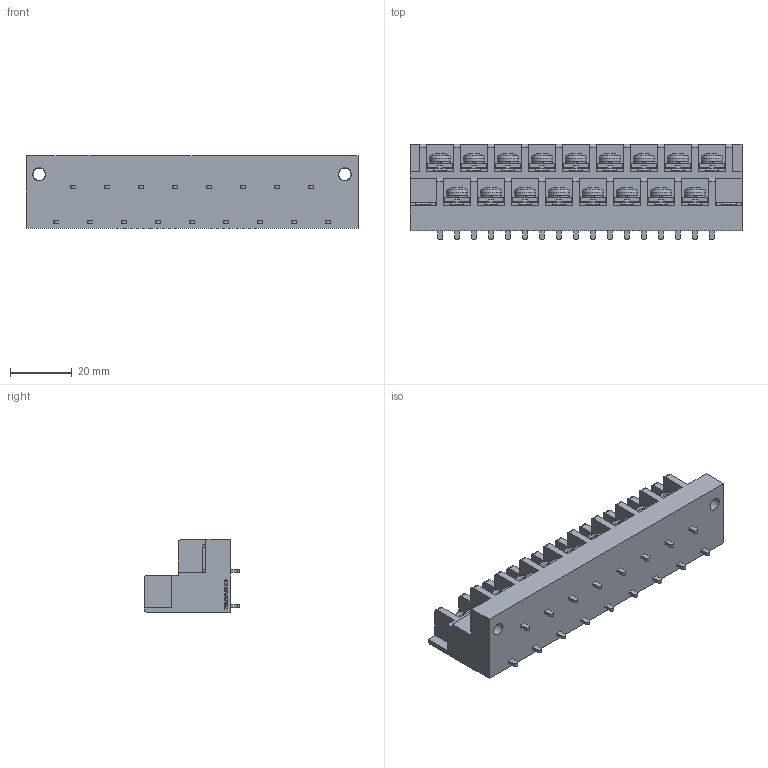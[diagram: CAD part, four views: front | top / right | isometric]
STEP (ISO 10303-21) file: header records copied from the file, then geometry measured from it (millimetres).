
FILE_DESCRIPTION(/* description */ ('Alibre Inc.'),/* implementation_level */ '2;1');
FILE_NAME(/* name */ 'export0',/* time_stamp */ '2016-08-05T14:33:58+09:00',/* author */ (''),/* organization */ (''),/* preprocessor_version */ 'ST-DEVELOPER v14',/* originating_system */ 'Alibre',/* authorisation */ '');
FILE_SCHEMA (('CONFIG_CONTROL_DESIGN'));
Length unit declared in the file: centimetre
Products named in the file (1): ID_1
Bounding box: 107.5 x 31 x 23.5 mm (x, y, z)
Volume: 44811.1 mm3; surface area: 20849 mm2
Topology: 1 solids, 158 shells, 3653 faces, 9558 edges, 6299 vertices
Faces by surface type: plane 2821, bspline 566, cylinder 147, cone 68, torus 34, sphere 17
Full cylindrical faces by diameter (mm): 4 x19, 4.2 x2, 7 x17
Entity records: 106728 total; most frequent: CARTESIAN_POINT 24586, ORIENTED_EDGE 19070, DIRECTION 11922, EDGE_CURVE 9467, VECTOR 7161, LINE 7161, VERTEX_POINT 6280, EDGE_LOOP 3955
